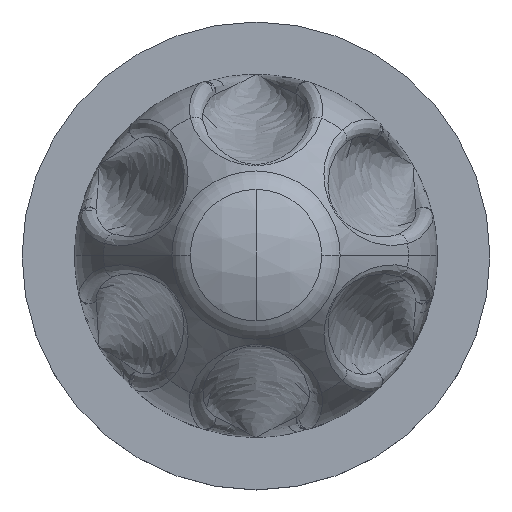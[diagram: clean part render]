
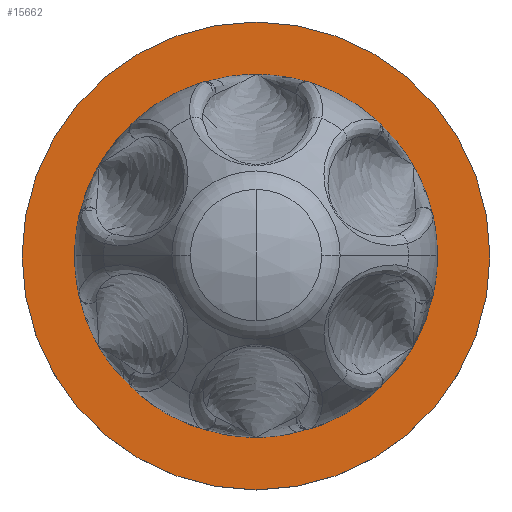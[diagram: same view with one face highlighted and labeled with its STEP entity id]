
A CAD part, top view. The second image highlights one B-rep face of the part: STEP entity #15662.
In plain terms, the highlighted planar face has unit normal (0, 0, 1).
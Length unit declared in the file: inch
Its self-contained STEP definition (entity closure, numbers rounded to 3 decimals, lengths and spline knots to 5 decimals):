
#25 = ORIENTED_EDGE ( 'NONE', *, *, #10376, .T. ) ;
#136 = CARTESIAN_POINT ( 'NONE',  ( 0., 0., 0. ) ) ;
#157 = AXIS2_PLACEMENT_3D ( 'NONE', #136, #8437, #14214 ) ;
#458 = AXIS2_PLACEMENT_3D ( 'NONE', #10809, #6990, #8471 ) ;
#1907 = VERTEX_POINT ( 'NONE', #17732 ) ;
#2276 = DIRECTION ( 'NONE',  ( -1., 0., 0. ) ) ;
#3129 = EDGE_CURVE ( 'NONE', #6240, #16955, #7923, .T. ) ;
#3435 = AXIS2_PLACEMENT_3D ( 'NONE', #17616, #5220, #2276 ) ;
#4085 = EDGE_LOOP ( 'NONE', ( #8314, #25 ) ) ;
#5153 = PLANE ( 'NONE',  #458 ) ;
#5220 = DIRECTION ( 'NONE',  ( 0., 0., -1. ) ) ;
#5248 = EDGE_CURVE ( 'NONE', #16955, #6240, #11421, .T. ) ;
#5696 = DIRECTION ( 'NONE',  ( -1., 0., 0. ) ) ;
#5728 = CIRCLE ( 'NONE', #157, 0.2555 ) ;
#5777 = FACE_BOUND ( 'NONE', #4085, .T. ) ;
#5800 = CARTESIAN_POINT ( 'NONE',  ( 0., 0., 0. ) ) ;
#6240 = VERTEX_POINT ( 'NONE', #8011 ) ;
#6879 = DIRECTION ( 'NONE',  ( 0., 0., -1. ) ) ;
#6990 = DIRECTION ( 'NONE',  ( 0., 0., -1. ) ) ;
#7923 = CIRCLE ( 'NONE', #16984, 0.3295 ) ;
#8011 = CARTESIAN_POINT ( 'NONE',  ( 0.3295, 0., 0. ) ) ;
#8180 = VERTEX_POINT ( 'NONE', #16200 ) ;
#8282 = EDGE_CURVE ( 'NONE', #8180, #1907, #5728, .T. ) ;
#8314 = ORIENTED_EDGE ( 'NONE', *, *, #8282, .T. ) ;
#8437 = DIRECTION ( 'NONE',  ( 0., 0., -1. ) ) ;
#8471 = DIRECTION ( 'NONE',  ( -1., 0., 0. ) ) ;
#9589 = CARTESIAN_POINT ( 'NONE',  ( -0.3295, 0., 0. ) ) ;
#9964 = ORIENTED_EDGE ( 'NONE', *, *, #5248, .F. ) ;
#10376 = EDGE_CURVE ( 'NONE', #1907, #8180, #16116, .T. ) ;
#10809 = CARTESIAN_POINT ( 'NONE',  ( 0., 0., 0. ) ) ;
#10824 = EDGE_LOOP ( 'NONE', ( #11675, #9964 ) ) ;
#11176 = DIRECTION ( 'NONE',  ( 0., 0., -1. ) ) ;
#11310 = CARTESIAN_POINT ( 'NONE',  ( 0., 0., 0. ) ) ;
#11421 = CIRCLE ( 'NONE', #3435, 0.3295 ) ;
#11675 = ORIENTED_EDGE ( 'NONE', *, *, #3129, .F. ) ;
#12710 = FACE_OUTER_BOUND ( 'NONE', #10824, .T. ) ;
#12917 = AXIS2_PLACEMENT_3D ( 'NONE', #5800, #11176, #5696 ) ;
#13966 = DIRECTION ( 'NONE',  ( -1., 0., 0. ) ) ;
#14214 = DIRECTION ( 'NONE',  ( -1., 0., 0. ) ) ;
#15662 = ADVANCED_FACE ( 'NONE', ( #5777, #12710 ), #5153, .F. ) ;
#16116 = CIRCLE ( 'NONE', #12917, 0.2555 ) ;
#16200 = CARTESIAN_POINT ( 'NONE',  ( -0.2555, 0., 0. ) ) ;
#16955 = VERTEX_POINT ( 'NONE', #9589 ) ;
#16984 = AXIS2_PLACEMENT_3D ( 'NONE', #11310, #6879, #13966 ) ;
#17616 = CARTESIAN_POINT ( 'NONE',  ( 0., 0., 0. ) ) ;
#17732 = CARTESIAN_POINT ( 'NONE',  ( 0.2555, 0., 0. ) ) ;
